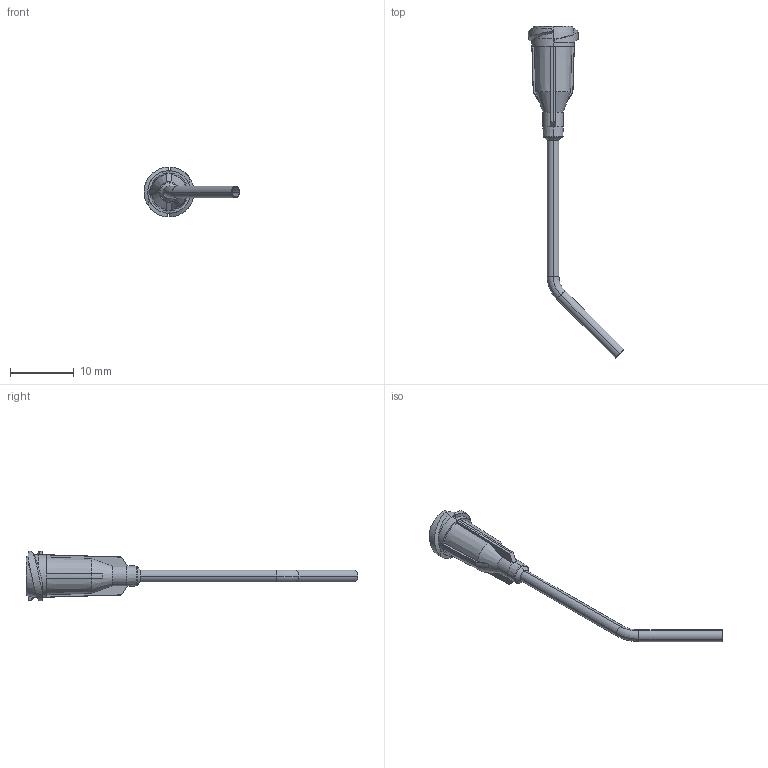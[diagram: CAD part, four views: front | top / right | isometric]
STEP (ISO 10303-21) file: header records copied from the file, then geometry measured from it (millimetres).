
FILE_DESCRIPTION (( 'STEP AP214' ), '1' );
FILE_NAME ('NORDSONEFD-7016905 14GA PICKUP TIP ID 063 OLIVE.STEP', '2019-10-02T08:23:32', ( '' ), ( '' ), 'SwSTEP 2.0', 'SolidWorks 2019', '' );
FILE_SCHEMA (( 'AUTOMOTIVE_DESIGN' ));
Length unit declared in the file: inch
Products named in the file (1): NORDSONEFD-7016905 14GA PICKUP TIP ID 063 OLIVE
Bounding box: 14.99 x 51.96 x 7.82 mm (x, y, z)
Volume: 279 mm3; surface area: 976.1 mm2
Topology: 1 solids, 1 shells, 128 faces, 294 edges, 172 vertices
Faces by surface type: torus 38, cylinder 30, plane 26, cone 22, bspline 12
Entity records: 4484 total; most frequent: CARTESIAN_POINT 1129, DIRECTION 638, ORIENTED_EDGE 588, EDGE_CURVE 294, AXIS2_PLACEMENT_3D 283, VERTEX_POINT 172, CIRCLE 166, EDGE_LOOP 134
